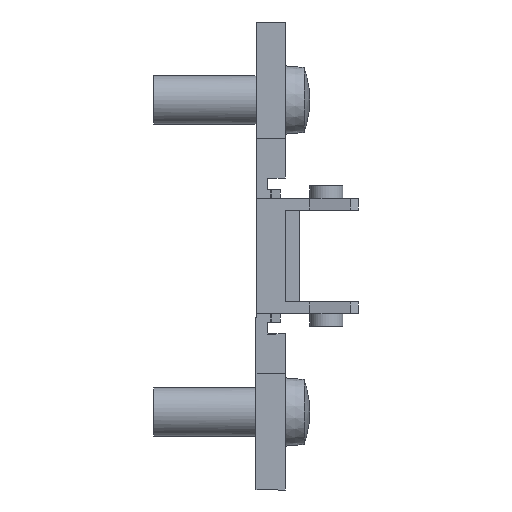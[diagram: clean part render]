
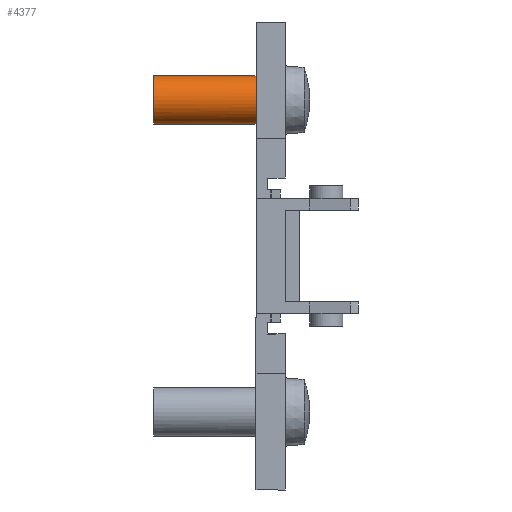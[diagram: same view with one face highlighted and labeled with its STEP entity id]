
A CAD part, front view. The second image highlights one B-rep face of the part: STEP entity #4377.
In plain terms, the highlighted cylindrical face has radius 2.5 mm (diameter 5 mm), a partial arc.
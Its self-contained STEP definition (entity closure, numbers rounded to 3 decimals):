
#218 = CIRCLE ( 'NONE', #3789, 2.5 ) ;
#241 = CIRCLE ( 'NONE', #3468, 2.5 ) ;
#311 = CIRCLE ( 'NONE', #3811, 2.5 ) ;
#348 = LINE ( 'NONE', #3918, #349 ) ;
#349 = VECTOR ( 'NONE', #3919, 1000. ) ;
#486 = LINE ( 'NONE', #4083, #488 ) ;
#488 = VECTOR ( 'NONE', #4091, 1000. ) ;
#556 = FACE_OUTER_BOUND ( 'NONE', #2135, .T. ) ;
#559 = CYLINDRICAL_SURFACE ( 'NONE', #3747, 2.5 ) ;
#918 = CARTESIAN_POINT ( 'NONE',  ( -10.5, 0., 13.5 ) ) ;
#927 = CARTESIAN_POINT ( 'NONE',  ( -10.5, 0., 18.5 ) ) ;
#928 = CARTESIAN_POINT ( 'NONE',  ( 0., -2.25, 17.09 ) ) ;
#966 = CARTESIAN_POINT ( 'NONE',  ( 0., -2.25, 14.91 ) ) ;
#971 = CARTESIAN_POINT ( 'NONE',  ( 0., 0., 18.5 ) ) ;
#990 = CARTESIAN_POINT ( 'NONE',  ( 0., 0., 13.5 ) ) ;
#1226 = CARTESIAN_POINT ( 'NONE',  ( 0., 0., 16. ) ) ;
#1227 = DIRECTION ( 'NONE',  ( 1., 0., 0. ) ) ;
#1228 = DIRECTION ( 'NONE',  ( 0., 0., -1. ) ) ;
#1256 = CARTESIAN_POINT ( 'NONE',  ( -10.5, 0., 16. ) ) ;
#1257 = DIRECTION ( 'NONE',  ( 1., 0., 0. ) ) ;
#1258 = DIRECTION ( 'NONE',  ( 0., 0., -1. ) ) ;
#1343 = EDGE_CURVE ( 'NONE', #3251, #3289, #2563, .T. ) ;
#1492 = ORIENTED_EDGE ( 'NONE', *, *, #3564, .T. ) ;
#1508 = ORIENTED_EDGE ( 'NONE', *, *, #3832, .F. ) ;
#1679 = ORIENTED_EDGE ( 'NONE', *, *, #3628, .F. ) ;
#1859 = ORIENTED_EDGE ( 'NONE', *, *, #3537, .F. ) ;
#1860 = ORIENTED_EDGE ( 'NONE', *, *, #3686, .T. ) ;
#2023 = ORIENTED_EDGE ( 'NONE', *, *, #1343, .F. ) ;
#2135 = EDGE_LOOP ( 'NONE', ( #1679, #1860, #1492, #1508, #1859, #2023 ) ) ;
#2563 = CIRCLE ( 'NONE', #3500, 2.5 ) ;
#3036 = CARTESIAN_POINT ( 'NONE',  ( 0., 0., 16. ) ) ;
#3037 = DIRECTION ( 'NONE',  ( 1., 0., 0. ) ) ;
#3038 = DIRECTION ( 'NONE',  ( 0., 0., -1. ) ) ;
#3241 = VERTEX_POINT ( 'NONE', #918 ) ;
#3250 = VERTEX_POINT ( 'NONE', #927 ) ;
#3251 = VERTEX_POINT ( 'NONE', #928 ) ;
#3289 = VERTEX_POINT ( 'NONE', #966 ) ;
#3295 = VERTEX_POINT ( 'NONE', #971 ) ;
#3314 = VERTEX_POINT ( 'NONE', #990 ) ;
#3468 = AXIS2_PLACEMENT_3D ( 'NONE', #1256, #1257, #1258 ) ;
#3500 = AXIS2_PLACEMENT_3D ( 'NONE', #3036, #3037, #3038 ) ;
#3537 = EDGE_CURVE ( 'NONE', #3289, #3314, #218, .T. ) ;
#3564 = EDGE_CURVE ( 'NONE', #3250, #3241, #241, .T. ) ;
#3628 = EDGE_CURVE ( 'NONE', #3295, #3251, #311, .T. ) ;
#3686 = EDGE_CURVE ( 'NONE', #3295, #3250, #348, .T. ) ;
#3747 = AXIS2_PLACEMENT_3D ( 'NONE', #4287, #4286, #4285 ) ;
#3789 = AXIS2_PLACEMENT_3D ( 'NONE', #1226, #1227, #1228 ) ;
#3811 = AXIS2_PLACEMENT_3D ( 'NONE', #3846, #3873, #3874 ) ;
#3832 = EDGE_CURVE ( 'NONE', #3314, #3241, #486, .T. ) ;
#3846 = CARTESIAN_POINT ( 'NONE',  ( 0., 0., 16. ) ) ;
#3873 = DIRECTION ( 'NONE',  ( 1., 0., 0. ) ) ;
#3874 = DIRECTION ( 'NONE',  ( 0., 0., -1. ) ) ;
#3918 = CARTESIAN_POINT ( 'NONE',  ( -10.5, 0., 18.5 ) ) ;
#3919 = DIRECTION ( 'NONE',  ( -1., 0., 0. ) ) ;
#4083 = CARTESIAN_POINT ( 'NONE',  ( -10.5, 0., 13.5 ) ) ;
#4091 = DIRECTION ( 'NONE',  ( -1., 0., 0. ) ) ;
#4285 = DIRECTION ( 'NONE',  ( 0., 0., -1. ) ) ;
#4286 = DIRECTION ( 'NONE',  ( -1., 0., 0. ) ) ;
#4287 = CARTESIAN_POINT ( 'NONE',  ( -10.5, 0., 16. ) ) ;
#4377 = ADVANCED_FACE ( 'NONE', ( #556 ), #559, .T. ) ;
